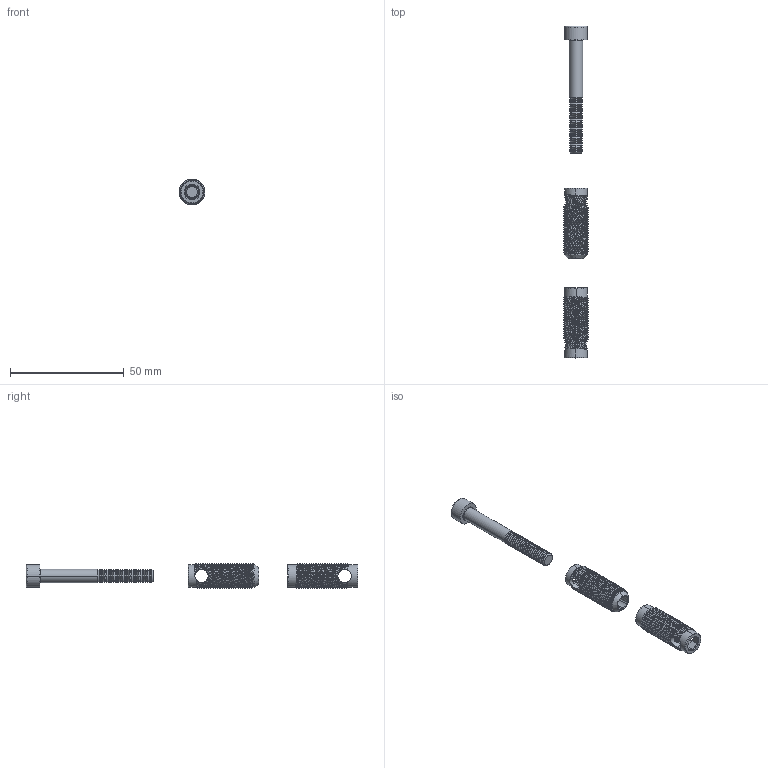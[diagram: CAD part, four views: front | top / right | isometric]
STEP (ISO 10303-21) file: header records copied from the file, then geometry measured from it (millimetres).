
FILE_DESCRIPTION (( 'STEP AP203' ), '1' );
FILE_NAME ('390028VA_Eindreh-Stoß-Verbindungssatz 8, einseitig, rostfrei.step', '2022-04-22T06:42:18', ( '' ), ( '' ), 'SwSTEP 2.0', 'SolidWorks 2021', '' );
FILE_SCHEMA (( 'CONFIG_CONTROL_DESIGN' ));
Length unit declared in the file: millimetre
Products named in the file (4): DIN 912 M6 x 50 --- 24S_DIN 912 M6 x 50 --- 24S; 390028VA Hülse; 390028VA Hülse mit Gewinde; 390028VA_Eindreh-Stoß-Verbindungssatz 8, einseitig, rostfrei
Assembly tree (3 placements, depth 2):
  390028VA_Eindreh-Stoß-Verbindungssatz 8, einseitig, rostfrei
    390028VA Hülse
    390028VA Hülse mit Gewinde
    DIN 912 M6 x 50 --- 24S_DIN 912 M6 x 50 --- 24S
Bounding box: 11.2 x 146.13 x 11.2 mm (x, y, z)
Volume: 4583.1 mm3; surface area: 6079.3 mm2
Topology: 3 solids, 3 shells, 557 faces, 1553 edges, 995 vertices
Faces by surface type: cylinder 215, cone 138, plane 97, bspline 97, torus 10
Entity records: 202170 total; most frequent: CARTESIAN_POINT 188932, ORIENTED_EDGE 3102, DIRECTION 2208, EDGE_CURVE 1551, VERTEX_POINT 995, AXIS2_PLACEMENT_3D 885, B_SPLINE_CURVE_WITH_KNOTS 600, EDGE_LOOP 564
